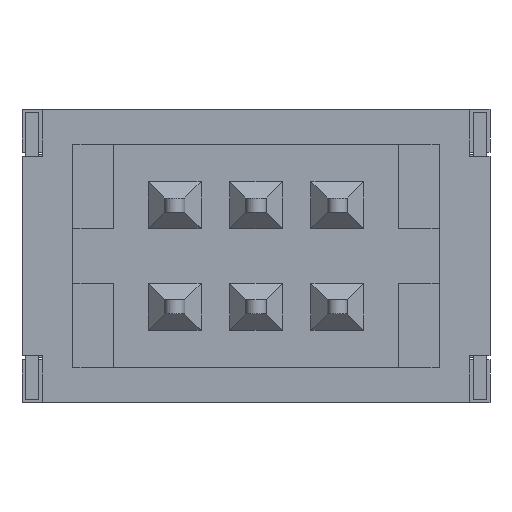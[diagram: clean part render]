
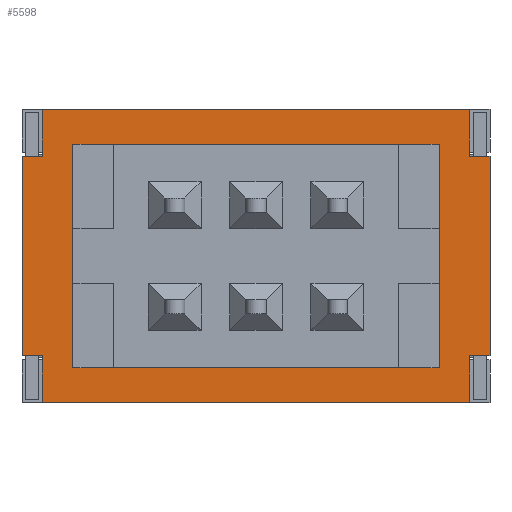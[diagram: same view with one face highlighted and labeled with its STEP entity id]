
A CAD part, front view. The second image highlights one B-rep face of the part: STEP entity #5598.
In plain terms, the highlighted planar face has unit normal (0, -1, 0).
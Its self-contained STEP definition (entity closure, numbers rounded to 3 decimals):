
#11 = EDGE_CURVE ( 'NONE', #7755, #5170, #7087, .T. ) ;
#462 = CARTESIAN_POINT ( 'NONE',  ( -5.25, 1.4, 2.45 ) ) ;
#497 = CARTESIAN_POINT ( 'NONE',  ( -5.25, 1.4, -2.45 ) ) ;
#598 = DIRECTION ( 'NONE',  ( 0., 0., -1. ) ) ;
#599 = VECTOR ( 'NONE', #598, 1000. ) ;
#600 = CARTESIAN_POINT ( 'NONE',  ( -5.25, 1.4, 3.6 ) ) ;
#601 = LINE ( 'NONE', #600, #599 ) ;
#606 = CARTESIAN_POINT ( 'NONE',  ( -5.25, 1.4, 3.6 ) ) ;
#615 = DIRECTION ( 'NONE',  ( 0., 0., -1. ) ) ;
#616 = VECTOR ( 'NONE', #615, 1000. ) ;
#617 = CARTESIAN_POINT ( 'NONE',  ( -5.25, 1.4, 3.6 ) ) ;
#618 = LINE ( 'NONE', #617, #616 ) ;
#650 = CARTESIAN_POINT ( 'NONE',  ( -5.25, 1.4, -3.6 ) ) ;
#1318 = CARTESIAN_POINT ( 'NONE',  ( -5.75, 1.4, -2.45 ) ) ;
#1319 = DIRECTION ( 'NONE',  ( 0., 0., 1. ) ) ;
#1320 = VECTOR ( 'NONE', #1319, 1000. ) ;
#1321 = CARTESIAN_POINT ( 'NONE',  ( -5.75, 1.4, -3.6 ) ) ;
#1322 = LINE ( 'NONE', #1321, #1320 ) ;
#1323 = CARTESIAN_POINT ( 'NONE',  ( -5.75, 1.4, 2.45 ) ) ;
#1324 = DIRECTION ( 'NONE',  ( -1., 0., 0. ) ) ;
#1325 = VECTOR ( 'NONE', #1324, 1000. ) ;
#1326 = CARTESIAN_POINT ( 'NONE',  ( -5.75, 1.4, 2.45 ) ) ;
#1327 = LINE ( 'NONE', #1326, #1325 ) ;
#1328 = DIRECTION ( 'NONE',  ( 0., 0., -1. ) ) ;
#1329 = VECTOR ( 'NONE', #1328, 1000. ) ;
#1330 = CARTESIAN_POINT ( 'NONE',  ( -4.5, 1.4, 2.75 ) ) ;
#1331 = LINE ( 'NONE', #1330, #1329 ) ;
#1332 = DIRECTION ( 'NONE',  ( 1., 0., 0. ) ) ;
#1333 = VECTOR ( 'NONE', #1332, 1000. ) ;
#1334 = CARTESIAN_POINT ( 'NONE',  ( -5.75, 1.4, 3.6 ) ) ;
#1335 = LINE ( 'NONE', #1334, #1333 ) ;
#1336 = DIRECTION ( 'NONE',  ( -1., 0., 0. ) ) ;
#1337 = VECTOR ( 'NONE', #1336, 1000. ) ;
#1338 = CARTESIAN_POINT ( 'NONE',  ( -5.75, 1.4, 2.45 ) ) ;
#1339 = LINE ( 'NONE', #1338, #1337 ) ;
#1340 = CARTESIAN_POINT ( 'NONE',  ( 5.75, 1.4, 2.45 ) ) ;
#1350 = FACE_BOUND ( 'NONE', #5570, .T. ) ;
#1351 = FACE_OUTER_BOUND ( 'NONE', #5599, .T. ) ;
#1378 = DIRECTION ( 'NONE',  ( 1., 0., 0. ) ) ;
#1379 = VECTOR ( 'NONE', #1378, 1000. ) ;
#1380 = CARTESIAN_POINT ( 'NONE',  ( -5.75, 1.4, -2.45 ) ) ;
#1381 = LINE ( 'NONE', #1380, #1379 ) ;
#1408 = DIRECTION ( 'NONE',  ( 0., 0., 1. ) ) ;
#1409 = DIRECTION ( 'NONE',  ( 0., 1., 0. ) ) ;
#1410 = CARTESIAN_POINT ( 'NONE',  ( -5.75, 1.4, 3.6 ) ) ;
#1411 = AXIS2_PLACEMENT_3D ( 'NONE', #1410, #1409, #1408 ) ;
#1412 = PLANE ( 'NONE',  #1411 ) ;
#1413 = CARTESIAN_POINT ( 'NONE',  ( -4.5, 1.4, -2.75 ) ) ;
#1414 = LINE ( 'NONE', #1413, #1475 ) ;
#1415 = CARTESIAN_POINT ( 'NONE',  ( 4.5, 1.4, -2.75 ) ) ;
#1416 = DIRECTION ( 'NONE',  ( 0., 0., 1. ) ) ;
#1417 = VECTOR ( 'NONE', #1416, 1000. ) ;
#1418 = CARTESIAN_POINT ( 'NONE',  ( 4.5, 1.4, 2.75 ) ) ;
#1419 = LINE ( 'NONE', #1418, #1417 ) ;
#1420 = CARTESIAN_POINT ( 'NONE',  ( 4.5, 1.4, 2.75 ) ) ;
#1421 = DIRECTION ( 'NONE',  ( -1., 0., 0. ) ) ;
#1422 = VECTOR ( 'NONE', #1421, 1000. ) ;
#1423 = CARTESIAN_POINT ( 'NONE',  ( -4.5, 1.4, 2.75 ) ) ;
#1424 = LINE ( 'NONE', #1423, #1422 ) ;
#1425 = CARTESIAN_POINT ( 'NONE',  ( -4.5, 1.4, -2.75 ) ) ;
#1426 = CARTESIAN_POINT ( 'NONE',  ( -4.5, 1.4, 2.75 ) ) ;
#1454 = DIRECTION ( 'NONE',  ( 0., 0., -1. ) ) ;
#1455 = VECTOR ( 'NONE', #1454, 1000. ) ;
#1456 = CARTESIAN_POINT ( 'NONE',  ( 5.75, 1.4, -3.6 ) ) ;
#1457 = LINE ( 'NONE', #1456, #1455 ) ;
#1458 = CARTESIAN_POINT ( 'NONE',  ( 5.75, 1.4, -2.45 ) ) ;
#1459 = DIRECTION ( 'NONE',  ( 1., 0., 0. ) ) ;
#1460 = VECTOR ( 'NONE', #1459, 1000. ) ;
#1461 = CARTESIAN_POINT ( 'NONE',  ( -5.75, 1.4, -2.45 ) ) ;
#1462 = LINE ( 'NONE', #1461, #1460 ) ;
#1474 = DIRECTION ( 'NONE',  ( 1., 0., 0. ) ) ;
#1475 = VECTOR ( 'NONE', #1474, 1000. ) ;
#4578 = DIRECTION ( 'NONE',  ( 0., 0., 1. ) ) ;
#4579 = VECTOR ( 'NONE', #4578, 1000. ) ;
#4580 = CARTESIAN_POINT ( 'NONE',  ( 5.25, 1.4, 3.6 ) ) ;
#4581 = LINE ( 'NONE', #4580, #4579 ) ;
#4582 = CARTESIAN_POINT ( 'NONE',  ( 5.25, 1.4, -2.45 ) ) ;
#4726 = CARTESIAN_POINT ( 'NONE',  ( 5.25, 1.4, -3.6 ) ) ;
#4769 = VERTEX_POINT ( 'NONE', #7205 ) ;
#4771 = EDGE_CURVE ( 'NONE', #4776, #4769, #7204, .T. ) ;
#4776 = VERTEX_POINT ( 'NONE', #7192 ) ;
#5091 = VERTEX_POINT ( 'NONE', #462 ) ;
#5097 = VERTEX_POINT ( 'NONE', #497 ) ;
#5153 = EDGE_CURVE ( 'NONE', #5097, #5170, #618, .T. ) ;
#5157 = VERTEX_POINT ( 'NONE', #606 ) ;
#5161 = EDGE_CURVE ( 'NONE', #5157, #5091, #601, .T. ) ;
#5170 = VERTEX_POINT ( 'NONE', #650 ) ;
#5564 = VERTEX_POINT ( 'NONE', #1340 ) ;
#5565 = ORIENTED_EDGE ( 'NONE', *, *, #5566, .T. ) ;
#5566 = EDGE_CURVE ( 'NONE', #5564, #4776, #1339, .T. ) ;
#5567 = ORIENTED_EDGE ( 'NONE', *, *, #4771, .T. ) ;
#5568 = ORIENTED_EDGE ( 'NONE', *, *, #5569, .F. ) ;
#5569 = EDGE_CURVE ( 'NONE', #5157, #4769, #1335, .T. ) ;
#5570 = EDGE_LOOP ( 'NONE', ( #5571, #5633, #5636, #5639 ) ) ;
#5571 = ORIENTED_EDGE ( 'NONE', *, *, #5572, .F. ) ;
#5572 = EDGE_CURVE ( 'NONE', #5631, #5632, #1331, .T. ) ;
#5573 = ORIENTED_EDGE ( 'NONE', *, *, #5161, .T. ) ;
#5574 = ORIENTED_EDGE ( 'NONE', *, *, #5575, .T. ) ;
#5575 = EDGE_CURVE ( 'NONE', #5091, #5576, #1327, .T. ) ;
#5576 = VERTEX_POINT ( 'NONE', #1323 ) ;
#5577 = ORIENTED_EDGE ( 'NONE', *, *, #5578, .F. ) ;
#5578 = EDGE_CURVE ( 'NONE', #5579, #5576, #1322, .T. ) ;
#5579 = VERTEX_POINT ( 'NONE', #1318 ) ;
#5580 = ORIENTED_EDGE ( 'NONE', *, *, #5581, .T. ) ;
#5581 = EDGE_CURVE ( 'NONE', #5579, #5097, #1381, .T. ) ;
#5582 = ORIENTED_EDGE ( 'NONE', *, *, #5153, .T. ) ;
#5583 = ORIENTED_EDGE ( 'NONE', *, *, #11, .F. ) ;
#5584 = ORIENTED_EDGE ( 'NONE', *, *, #7042, .T. ) ;
#5598 = ADVANCED_FACE ( 'NONE', ( #1351, #1350 ), #1412, .F. ) ;
#5599 = EDGE_LOOP ( 'NONE', ( #5573, #5574, #5577, #5580, #5582, #5583, #5584, #5646, #5649, #5565, #5567, #5568 ) ) ;
#5631 = VERTEX_POINT ( 'NONE', #1426 ) ;
#5632 = VERTEX_POINT ( 'NONE', #1425 ) ;
#5633 = ORIENTED_EDGE ( 'NONE', *, *, #5634, .F. ) ;
#5634 = EDGE_CURVE ( 'NONE', #5635, #5631, #1424, .T. ) ;
#5635 = VERTEX_POINT ( 'NONE', #1420 ) ;
#5636 = ORIENTED_EDGE ( 'NONE', *, *, #5637, .F. ) ;
#5637 = EDGE_CURVE ( 'NONE', #5638, #5635, #1419, .T. ) ;
#5638 = VERTEX_POINT ( 'NONE', #1415 ) ;
#5639 = ORIENTED_EDGE ( 'NONE', *, *, #5640, .F. ) ;
#5640 = EDGE_CURVE ( 'NONE', #5632, #5638, #1414, .T. ) ;
#5646 = ORIENTED_EDGE ( 'NONE', *, *, #5647, .T. ) ;
#5647 = EDGE_CURVE ( 'NONE', #7041, #5648, #1462, .T. ) ;
#5648 = VERTEX_POINT ( 'NONE', #1458 ) ;
#5649 = ORIENTED_EDGE ( 'NONE', *, *, #5650, .F. ) ;
#5650 = EDGE_CURVE ( 'NONE', #5564, #5648, #1457, .T. ) ;
#7041 = VERTEX_POINT ( 'NONE', #4582 ) ;
#7042 = EDGE_CURVE ( 'NONE', #7755, #7041, #4581, .T. ) ;
#7084 = DIRECTION ( 'NONE',  ( -1., 0., 0. ) ) ;
#7085 = VECTOR ( 'NONE', #7084, 1000. ) ;
#7086 = CARTESIAN_POINT ( 'NONE',  ( -5.75, 1.4, -3.6 ) ) ;
#7087 = LINE ( 'NONE', #7086, #7085 ) ;
#7192 = CARTESIAN_POINT ( 'NONE',  ( 5.25, 1.4, 2.45 ) ) ;
#7201 = DIRECTION ( 'NONE',  ( 0., 0., 1. ) ) ;
#7202 = VECTOR ( 'NONE', #7201, 1000. ) ;
#7203 = CARTESIAN_POINT ( 'NONE',  ( 5.25, 1.4, 3.6 ) ) ;
#7204 = LINE ( 'NONE', #7203, #7202 ) ;
#7205 = CARTESIAN_POINT ( 'NONE',  ( 5.25, 1.4, 3.6 ) ) ;
#7755 = VERTEX_POINT ( 'NONE', #4726 ) ;
